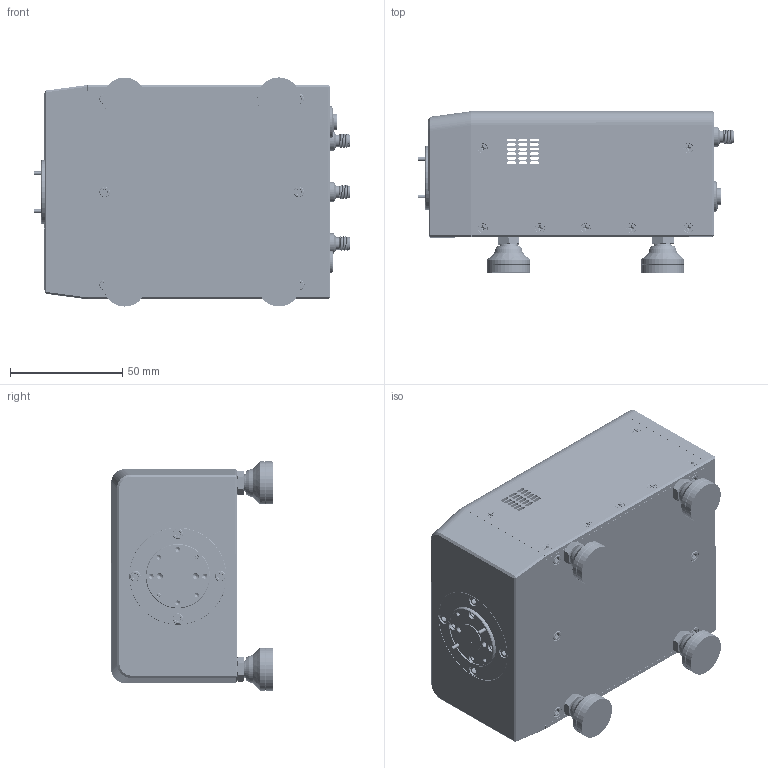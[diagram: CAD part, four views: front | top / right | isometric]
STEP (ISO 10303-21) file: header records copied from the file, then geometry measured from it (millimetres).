
FILE_DESCRIPTION (( 'STEP AP214' ), '1' );
FILE_NAME ('TO-TU-A.STEP', '2024-10-31T20:28:26', ( '' ), ( '' ), 'SwSTEP 2.0', 'SolidWorks 2021', '' );
FILE_SCHEMA (( 'AUTOMOTIVE_DESIGN' ));
Length unit declared in the file: inch
Products named in the file (1): TO-TU-A
Bounding box: 140.96 x 72.02 x 101.9 mm (x, y, z)
Volume: 237113.6 mm3; surface area: 136876.8 mm2
Topology: 75 solids, 75 shells, 4091 faces, 10827 edges, 6891 vertices
Faces by surface type: cylinder 1927, plane 981, cone 775, bspline 363, sphere 37, torus 8
Entity records: 296925 total; most frequent: CARTESIAN_POINT 152523, ORIENTED_EDGE 21272, DIRECTION 16212, EDGE_CURVE 10636, VERTEX_POINT 6861, AXIS2_PLACEMENT_3D 6176, EDGE_LOOP 4487, LENGTH_MEASURE_WITH_UNIT 4165
